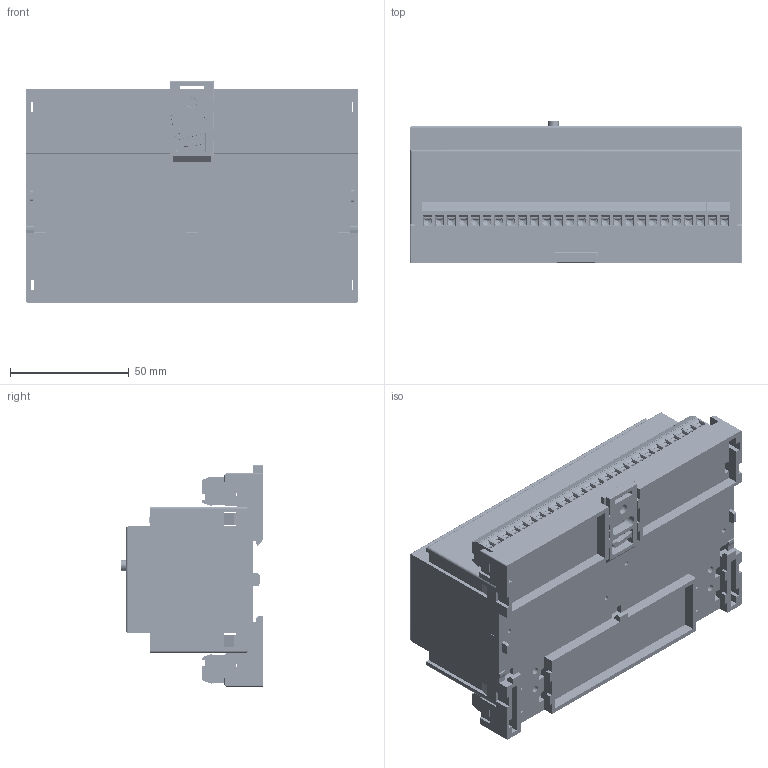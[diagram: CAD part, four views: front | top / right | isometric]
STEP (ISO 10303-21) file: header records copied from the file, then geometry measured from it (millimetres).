
FILE_DESCRIPTION (( 'STEP AP214' ), '1' );
FILE_NAME ('12660-1901-01_3D.STEP', '2018-09-03T09:58:42', ( '' ), ( '' ), 'SwSTEP 2.0', 'SolidWorks 2018', '' );
FILE_SCHEMA (( 'AUTOMOTIVE_DESIGN' ));
Length unit declared in the file: millimetre
Products named in the file (25): 31137102^12660-1901-01_3D; Kopie von Pin4^RJ 45 (RJ-001NA1)_12660-1901-01_3D; 12660-1901-xx_Frontplatte^12660-1901-01_3D; 12660-1200-01_Typenschild^12660-1901-01_3D; V8_Leiterplatte^12660-1901-01_3D; Kopie von Pin2^RJ 45 (RJ-001NA1)_12660-1901-01_3D; Kopie von Shielding^RJ 45 (RJ-001NA1)_12660-1901-01_3D; Kopie von Pin1^RJ 45 (RJ-001NA1)_12660-1901-01_3D; V8_Unterteil^12660-1901-01_3D; 12660-1901-xx_Oberteil^12660-1901-01_3D; RJ 45 (RJ-001NA1)^12660-1901-01_3D; V-Riegel_3D^12660-1901-01_3D; 12660-1200-01_Display^12660-1901-01_3D; Kopie von Pin7^RJ 45 (RJ-001NA1)_12660-1901-01_3D; 12660-1901-01_3D; Dip_2polig_SMD^12660-1901-01_3D; Kopie von Housing2^RJ 45 (RJ-001NA1)_12660-1901-01_3D; 12620-1911-01_Joystickknopf_3,2mm^12660-1901-01_3D; Kopie von Pin8^RJ 45 (RJ-001NA1)_12660-1901-01_3D; 31137103^12660-1901-01_3D; 31137104^12660-1901-01_3D; Kopie von Pin5^RJ 45 (RJ-001NA1)_12660-1901-01_3D; Kopie von Housing^RJ 45 (RJ-001NA1)_12660-1901-01_3D; Kopie von Pin3^RJ 45 (RJ-001NA1)_12660-1901-01_3D; Kopie von Pin6^RJ 45 (RJ-001NA1)_12660-1901-01_3D
Assembly tree (35 placements, depth 3):
  12660-1901-01_3D
    V8_Unterteil^12660-1901-01_3D
    V8_Leiterplatte^12660-1901-01_3D
    12660-1901-xx_Oberteil^12660-1901-01_3D
    12660-1901-xx_Frontplatte^12660-1901-01_3D
    V-Riegel_3D^12660-1901-01_3D
    31137102^12660-1901-01_3D  x2
    31137103^12660-1901-01_3D  x4
    12620-1911-01_Joystickknopf_3,2mm^12660-1901-01_3D
    RJ 45 (RJ-001NA1)^12660-1901-01_3D
      Kopie von Pin1^RJ 45 (RJ-001NA1)_12660-1901-01_3D
      Kopie von Pin2^RJ 45 (RJ-001NA1)_12660-1901-01_3D
      Kopie von Pin6^RJ 45 (RJ-001NA1)_12660-1901-01_3D
      Kopie von Pin4^RJ 45 (RJ-001NA1)_12660-1901-01_3D
      Kopie von Pin3^RJ 45 (RJ-001NA1)_12660-1901-01_3D
      Kopie von Pin5^RJ 45 (RJ-001NA1)_12660-1901-01_3D
      Kopie von Pin7^RJ 45 (RJ-001NA1)_12660-1901-01_3D
      Kopie von Pin8^RJ 45 (RJ-001NA1)_12660-1901-01_3D
      Kopie von Housing^RJ 45 (RJ-001NA1)_12660-1901-01_3D
      Kopie von Housing2^RJ 45 (RJ-001NA1)_12660-1901-01_3D
      Kopie von Shielding^RJ 45 (RJ-001NA1)_12660-1901-01_3D
    31137104^12660-1901-01_3D  x8
    Dip_2polig_SMD^12660-1901-01_3D
    12660-1200-01_Display^12660-1901-01_3D
    12660-1200-01_Typenschild^12660-1901-01_3D
Bounding box: 140 x 60.18 x 93.34 mm (x, y, z)
Volume: 135427.1 mm3; surface area: 173496.6 mm2
Topology: 654 solids, 654 shells, 13231 faces, 35034 edges, 22836 vertices
Faces by surface type: plane 8757, cylinder 2170, bspline 1591, cone 591, torus 86, sphere 36
Entity records: 333832 total; most frequent: CARTESIAN_POINT 90616, ORIENTED_EDGE 44352, DIRECTION 37198, EDGE_CURVE 22176, VECTOR 17000, LINE 17000, VERTEX_POINT 14547, AXIS2_PLACEMENT_3D 10099
